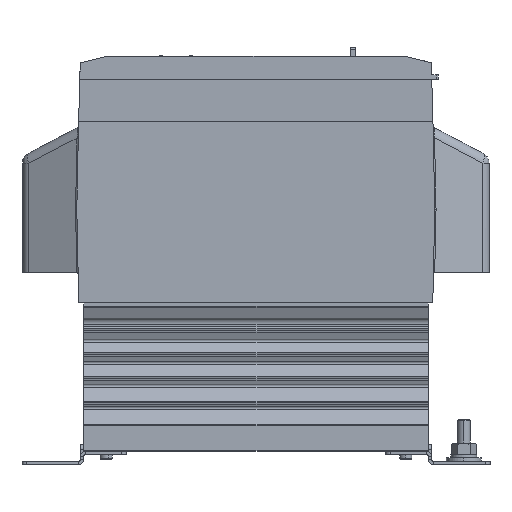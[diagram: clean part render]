
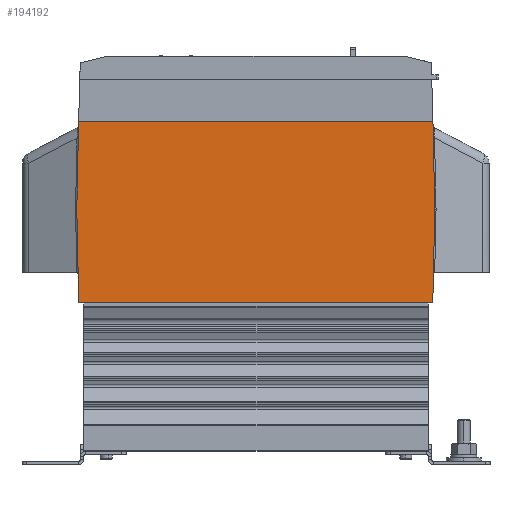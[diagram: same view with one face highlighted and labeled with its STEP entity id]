
A CAD part, left-side view. The second image highlights one B-rep face of the part: STEP entity #194192.
In plain terms, the highlighted planar face has unit normal (-1, 0, 0).
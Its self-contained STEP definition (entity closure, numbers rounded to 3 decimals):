
#1980 = DIRECTION ( 'NONE',  ( 0., 0.021, 1. ) ) ;
#6877 = LINE ( 'NONE', #133834, #224480 ) ;
#8280 = CARTESIAN_POINT ( 'NONE',  ( 0., 0., -43. ) ) ;
#12233 = AXIS2_PLACEMENT_3D ( 'NONE', #115189, #149976, #96719 ) ;
#17430 = CARTESIAN_POINT ( 'NONE',  ( 0., 0.901, -43. ) ) ;
#17449 = VERTEX_POINT ( 'NONE', #22981 ) ;
#18324 = ORIENTED_EDGE ( 'NONE', *, *, #112151, .T. ) ;
#22981 = CARTESIAN_POINT ( 'NONE',  ( 0., 164., 0. ) ) ;
#29290 = CARTESIAN_POINT ( 'NONE',  ( 0., 0.838, 40. ) ) ;
#37247 = EDGE_CURVE ( 'NONE', #84167, #47781, #121045, .T. ) ;
#39880 = VERTEX_POINT ( 'NONE', #155890 ) ;
#47781 = VERTEX_POINT ( 'NONE', #29290 ) ;
#48126 = ORIENTED_EDGE ( 'NONE', *, *, #198495, .T. ) ;
#53857 = FACE_OUTER_BOUND ( 'NONE', #55713, .T. ) ;
#55713 = EDGE_LOOP ( 'NONE', ( #48126, #169682, #82163, #18324, #144033, #206581 ) ) ;
#57669 = VECTOR ( 'NONE', #196281, 1000. ) ;
#66876 = EDGE_CURVE ( 'NONE', #39880, #17449, #77477, .T. ) ;
#72988 = CARTESIAN_POINT ( 'NONE',  ( 0., 164., 40. ) ) ;
#77477 = LINE ( 'NONE', #142849, #82963 ) ;
#78651 = EDGE_CURVE ( 'NONE', #47781, #187942, #226169, .T. ) ;
#82163 = ORIENTED_EDGE ( 'NONE', *, *, #167077, .T. ) ;
#82963 = VECTOR ( 'NONE', #1980, 1000. ) ;
#84167 = VERTEX_POINT ( 'NONE', #171494 ) ;
#95967 = PLANE ( 'NONE',  #12233 ) ;
#96719 = DIRECTION ( 'NONE',  ( 0., 0., -1. ) ) ;
#98796 = CARTESIAN_POINT ( 'NONE',  ( 0., 0., 0. ) ) ;
#112151 = EDGE_CURVE ( 'NONE', #131860, #187942, #173718, .T. ) ;
#115189 = CARTESIAN_POINT ( 'NONE',  ( 0., 164., 40. ) ) ;
#121045 = LINE ( 'NONE', #72988, #57669 ) ;
#131860 = VERTEX_POINT ( 'NONE', #17430 ) ;
#133834 = CARTESIAN_POINT ( 'NONE',  ( 0., 163.162, 39.982 ) ) ;
#136362 = CARTESIAN_POINT ( 'NONE',  ( 0., 0.9, -42.981 ) ) ;
#142849 = CARTESIAN_POINT ( 'NONE',  ( 0., 164., 0. ) ) ;
#144033 = ORIENTED_EDGE ( 'NONE', *, *, #78651, .F. ) ;
#149976 = DIRECTION ( 'NONE',  ( 1., 0., 0. ) ) ;
#155890 = CARTESIAN_POINT ( 'NONE',  ( 0., 163.099, -43. ) ) ;
#167077 = EDGE_CURVE ( 'NONE', #39880, #131860, #190411, .T. ) ;
#169682 = ORIENTED_EDGE ( 'NONE', *, *, #66876, .F. ) ;
#171323 = DIRECTION ( 'NONE',  ( 0., -0.021, -1. ) ) ;
#171494 = CARTESIAN_POINT ( 'NONE',  ( 0., 163.162, 40. ) ) ;
#173718 = LINE ( 'NONE', #136362, #206850 ) ;
#176712 = VECTOR ( 'NONE', #219992, 1000. ) ;
#182006 = VECTOR ( 'NONE', #171323, 1000. ) ;
#187942 = VERTEX_POINT ( 'NONE', #219396 ) ;
#190411 = LINE ( 'NONE', #8280, #176712 ) ;
#191054 = DIRECTION ( 'NONE',  ( 0., -0.021, 1. ) ) ;
#194192 = ADVANCED_FACE ( 'NONE', ( #53857 ), #95967, .F. ) ;
#196281 = DIRECTION ( 'NONE',  ( 0., -1., 0. ) ) ;
#198495 = EDGE_CURVE ( 'NONE', #84167, #17449, #6877, .T. ) ;
#206581 = ORIENTED_EDGE ( 'NONE', *, *, #37247, .F. ) ;
#206850 = VECTOR ( 'NONE', #191054, 1000. ) ;
#219396 = CARTESIAN_POINT ( 'NONE',  ( 0., 0., 0. ) ) ;
#219992 = DIRECTION ( 'NONE',  ( 0., -1., 0. ) ) ;
#223155 = DIRECTION ( 'NONE',  ( 0., 0.021, -1. ) ) ;
#224480 = VECTOR ( 'NONE', #223155, 1000. ) ;
#226169 = LINE ( 'NONE', #98796, #182006 ) ;
